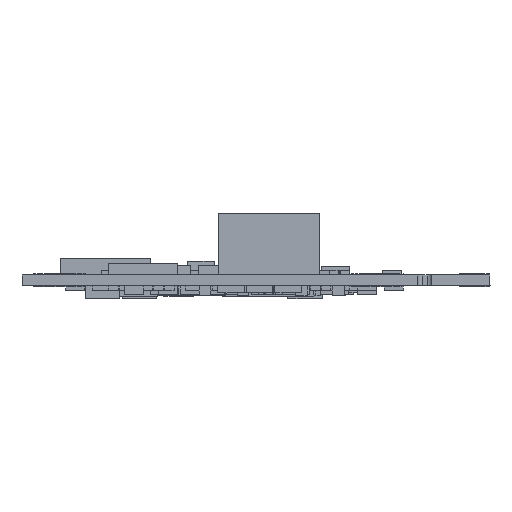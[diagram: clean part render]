
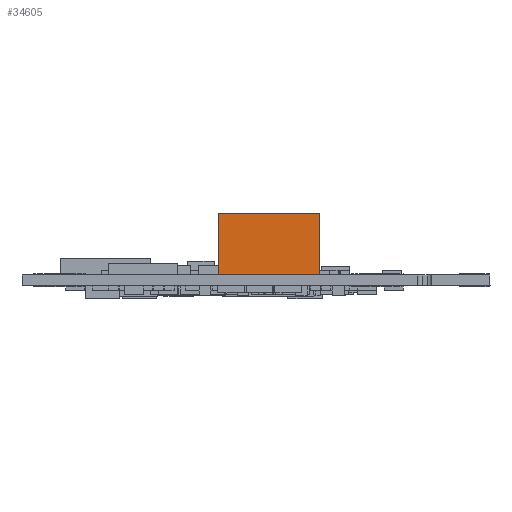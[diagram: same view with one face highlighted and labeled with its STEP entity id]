
A CAD part, left-side view. The second image highlights one B-rep face of the part: STEP entity #34605.
In plain terms, the highlighted planar face has unit normal (-1, 0, 0).
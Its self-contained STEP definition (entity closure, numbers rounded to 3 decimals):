
#34578=AXIS2_PLACEMENT_3D('Plane Axis2P3D',#34575,#34576,#34577) ;
#34546=CARTESIAN_POINT('Vertex',(0.458,28.994,0.)) ;
#34560=CARTESIAN_POINT('Vertex',(0.458,18.194,0.)) ;
#34563=CARTESIAN_POINT('Line Origine',(0.458,23.594,0.)) ;
#34575=CARTESIAN_POINT('Axis2P3D Location',(0.458,18.194,3.81)) ;
#34580=CARTESIAN_POINT('Line Origine',(0.458,28.994,3.3)) ;
#34584=CARTESIAN_POINT('Vertex',(0.458,28.994,6.6)) ;
#34587=CARTESIAN_POINT('Line Origine',(0.458,18.194,3.3)) ;
#34591=CARTESIAN_POINT('Vertex',(0.458,18.194,6.6)) ;
#34594=CARTESIAN_POINT('Line Origine',(0.458,23.594,6.6)) ;
#34564=DIRECTION('Vector Direction',(0.,-1.,0.)) ;
#34576=DIRECTION('Axis2P3D Direction',(-1.,0.,0.)) ;
#34577=DIRECTION('Axis2P3D XDirection',(0.,1.,0.)) ;
#34581=DIRECTION('Vector Direction',(0.,0.,-1.)) ;
#34588=DIRECTION('Vector Direction',(0.,0.,-1.)) ;
#34595=DIRECTION('Vector Direction',(0.,1.,0.)) ;
#34565=VECTOR('Line Direction',#34564,1.) ;
#34582=VECTOR('Line Direction',#34581,1.) ;
#34589=VECTOR('Line Direction',#34588,1.) ;
#34596=VECTOR('Line Direction',#34595,1.) ;
#34600=ORIENTED_EDGE('',*,*,#34586,.T.) ;
#34601=ORIENTED_EDGE('',*,*,#34567,.T.) ;
#34602=ORIENTED_EDGE('',*,*,#34593,.F.) ;
#34603=ORIENTED_EDGE('',*,*,#34598,.T.) ;
#34605=ADVANCED_FACE('2691\\2690\\2679\\MANIFOLD_SOLID_BREP #6765',(#34604),#34579,.T.) ;
#34567=EDGE_CURVE('',#34547,#34561,#34566,.T.) ;
#34586=EDGE_CURVE('',#34585,#34547,#34583,.T.) ;
#34593=EDGE_CURVE('',#34592,#34561,#34590,.T.) ;
#34598=EDGE_CURVE('',#34592,#34585,#34597,.T.) ;
#34599=EDGE_LOOP('',(#34600,#34601,#34602,#34603)) ;
#34604=FACE_OUTER_BOUND('',#34599,.T.) ;
#34566=LINE('Line',#34563,#34565) ;
#34583=LINE('Line',#34580,#34582) ;
#34590=LINE('Line',#34587,#34589) ;
#34597=LINE('Line',#34594,#34596) ;
#34579=PLANE('Plane',#34578) ;
#34547=VERTEX_POINT('',#34546) ;
#34561=VERTEX_POINT('',#34560) ;
#34585=VERTEX_POINT('',#34584) ;
#34592=VERTEX_POINT('',#34591) ;
